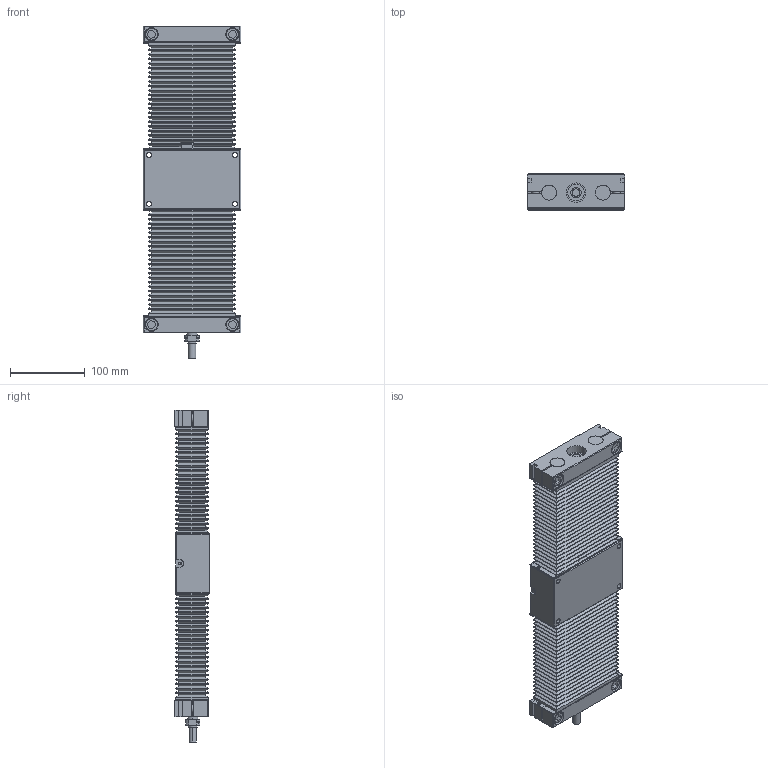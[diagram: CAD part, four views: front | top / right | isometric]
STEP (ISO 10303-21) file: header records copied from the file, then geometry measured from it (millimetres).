
FILE_DESCRIPTION (( 'STEP AP214' ), '1' );
FILE_NAME ('TKC2010B-150H0C-Ä£×é.step', '2025-08-25T08:39:11', ( '' ), ( '' ), 'SwSTEP 2.0', 'SolidWorks 2024', '' );
FILE_SCHEMA (( 'AUTOMOTIVE_DESIGN' ));
Length unit declared in the file: millimetre
Products named in the file (4): TKC20-150-01; TKC20-02; TKC2010B-150H0C-模组; TKC20-150-03
Assembly tree (4 placements, depth 2):
  TKC2010B-150H0C-模组
    TKC20-02
    TKC20-150-01
    TKC20-150-03  x2
Bounding box: 130 x 48 x 443.5 mm (x, y, z)
Volume: 1568179.3 mm3; surface area: 470943.4 mm2
Topology: 14 solids, 14 shells, 1272 faces, 2875 edges, 1676 vertices
Faces by surface type: plane 873, cylinder 324, cone 36, torus 28, bspline 11
Entity records: 49312 total; most frequent: CARTESIAN_POINT 27118, ORIENTED_EDGE 4430, DIRECTION 4413, EDGE_CURVE 2215, VECTOR 1477, LINE 1477, AXIS2_PLACEMENT_3D 1468, VERTEX_POINT 1352
